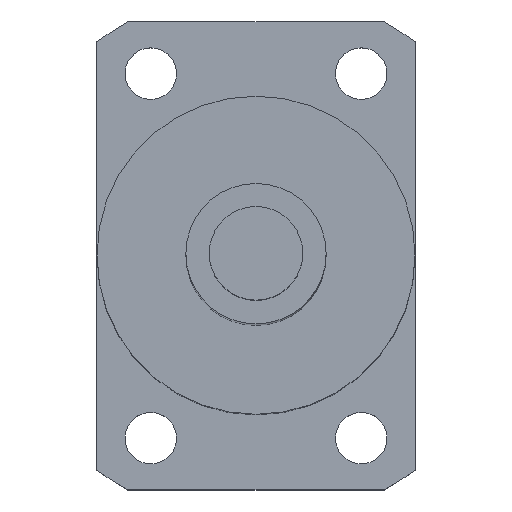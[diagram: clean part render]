
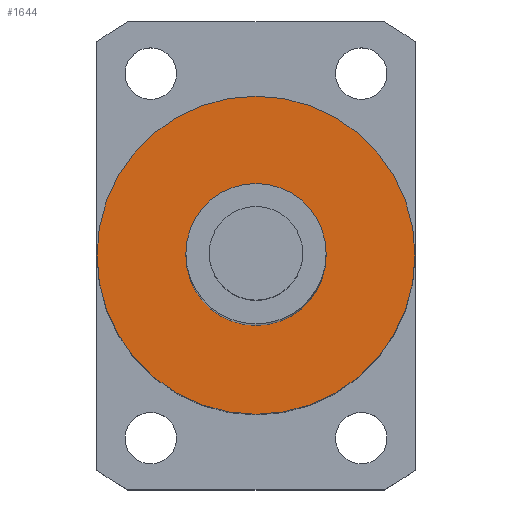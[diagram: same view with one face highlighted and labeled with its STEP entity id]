
A CAD part, top view. The second image highlights one B-rep face of the part: STEP entity #1644.
In plain terms, the highlighted planar face has unit normal (0, 0, 1).
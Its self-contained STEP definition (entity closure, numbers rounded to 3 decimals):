
#512=CARTESIAN_POINT('',(0.,0.,207.5));
#513=DIRECTION('',(0.,0.,1.));
#514=DIRECTION('',(1.,0.,0.));
#515=AXIS2_PLACEMENT_3D('',#512,#513,#514);
#517=CARTESIAN_POINT('',(0.,0.,207.5));
#518=DIRECTION('',(0.,0.,1.));
#519=DIRECTION('',(-1.,0.,0.));
#520=AXIS2_PLACEMENT_3D('',#517,#518,#519);
#522=CARTESIAN_POINT('',(0.,0.,207.5));
#523=DIRECTION('',(0.,0.,1.));
#524=DIRECTION('',(1.,0.,0.));
#525=AXIS2_PLACEMENT_3D('',#522,#523,#524);
#527=CARTESIAN_POINT('',(0.,0.,207.5));
#528=DIRECTION('',(0.,0.,1.));
#529=DIRECTION('',(-1.,0.,0.));
#530=AXIS2_PLACEMENT_3D('',#527,#528,#529);
#757=CARTESIAN_POINT('',(17.,0.,207.5));
#758=CARTESIAN_POINT('',(-17.,0.,207.5));
#759=VERTEX_POINT('',#757);
#760=VERTEX_POINT('',#758);
#769=CARTESIAN_POINT('',(7.5,0.,207.5));
#770=CARTESIAN_POINT('',(-7.5,0.,207.5));
#771=VERTEX_POINT('',#769);
#772=VERTEX_POINT('',#770);
#1629=CARTESIAN_POINT('',(0.,0.,207.5));
#1630=DIRECTION('',(0.,0.,1.));
#1631=DIRECTION('',(1.,0.,0.));
#1632=AXIS2_PLACEMENT_3D('',#1629,#1630,#1631);
#1633=PLANE('',#1632);
#1634=ORIENTED_EDGE('',*,*,#1609,.F.);
#1635=ORIENTED_EDGE('',*,*,#1623,.F.);
#1636=EDGE_LOOP('',(#1634,#1635));
#1637=FACE_OUTER_BOUND('',#1636,.F.);
#1639=ORIENTED_EDGE('',*,*,#1638,.T.);
#1641=ORIENTED_EDGE('',*,*,#1640,.T.);
#1642=EDGE_LOOP('',(#1639,#1641));
#1643=FACE_BOUND('',#1642,.F.);
#1644=ADVANCED_FACE('',(#1637,#1643),#1633,.T.);
#516=CIRCLE('',#515,17.);
#521=CIRCLE('',#520,17.);
#526=CIRCLE('',#525,7.5);
#531=CIRCLE('',#530,7.5);
#1609=EDGE_CURVE('',#759,#760,#516,.T.);
#1623=EDGE_CURVE('',#760,#759,#521,.T.);
#1638=EDGE_CURVE('',#771,#772,#526,.T.);
#1640=EDGE_CURVE('',#772,#771,#531,.T.);
